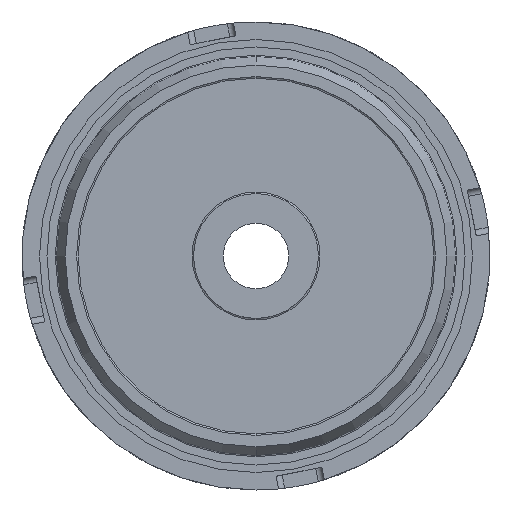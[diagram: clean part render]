
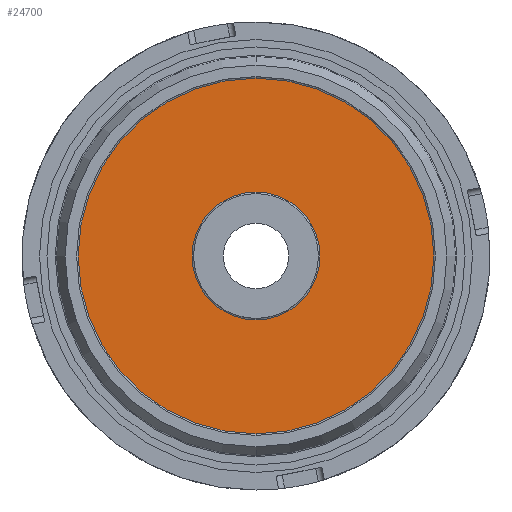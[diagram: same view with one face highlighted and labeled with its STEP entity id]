
A CAD part, front view. The second image highlights one B-rep face of the part: STEP entity #24700.
In plain terms, the highlighted planar face has unit normal (0, -1, 0).
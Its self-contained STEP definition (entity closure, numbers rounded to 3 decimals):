
#2913 = ORIENTED_EDGE ( 'NONE', *, *, #55983, .T. ) ;
#5612 = EDGE_LOOP ( 'NONE', ( #22910, #33255 ) ) ;
#9103 = CARTESIAN_POINT ( 'NONE',  ( 0., 6., 57. ) ) ;
#9233 = FACE_OUTER_BOUND ( 'NONE', #34393, .T. ) ;
#9334 = CIRCLE ( 'NONE', #9999, 57. ) ;
#9999 = AXIS2_PLACEMENT_3D ( 'NONE', #62638, #31224, #67914 ) ;
#10736 = CARTESIAN_POINT ( 'NONE',  ( 0., 6., 20.5 ) ) ;
#11826 = CARTESIAN_POINT ( 'NONE',  ( 0., 6., 0. ) ) ;
#12656 = PLANE ( 'NONE',  #33488 ) ;
#16329 = CARTESIAN_POINT ( 'NONE',  ( 0., 6., 0. ) ) ;
#17092 = DIRECTION ( 'NONE',  ( 0., 0., -1. ) ) ;
#21589 = DIRECTION ( 'NONE',  ( 0., 1., 0. ) ) ;
#21607 = DIRECTION ( 'NONE',  ( 0., 0., -1. ) ) ;
#22910 = ORIENTED_EDGE ( 'NONE', *, *, #40619, .T. ) ;
#23222 = DIRECTION ( 'NONE',  ( 0., 0., -1. ) ) ;
#24700 = ADVANCED_FACE ( 'NONE', ( #9233, #65041 ), #12656, .T. ) ;
#31224 = DIRECTION ( 'NONE',  ( 0., -1., 0. ) ) ;
#32034 = CARTESIAN_POINT ( 'NONE',  ( 0., 6., -20.5 ) ) ;
#33255 = ORIENTED_EDGE ( 'NONE', *, *, #35791, .T. ) ;
#33488 = AXIS2_PLACEMENT_3D ( 'NONE', #59674, #54646, #23222 ) ;
#34393 = EDGE_LOOP ( 'NONE', ( #63107, #2913 ) ) ;
#35791 = EDGE_CURVE ( 'NONE', #45920, #42626, #60324, .T. ) ;
#38121 = AXIS2_PLACEMENT_3D ( 'NONE', #52989, #21589, #58287 ) ;
#40619 = EDGE_CURVE ( 'NONE', #42626, #45920, #62215, .T. ) ;
#42032 = AXIS2_PLACEMENT_3D ( 'NONE', #16329, #53020, #21607 ) ;
#42626 = VERTEX_POINT ( 'NONE', #32034 ) ;
#44988 = VERTEX_POINT ( 'NONE', #45868 ) ;
#45868 = CARTESIAN_POINT ( 'NONE',  ( 0., 6., -57. ) ) ;
#45920 = VERTEX_POINT ( 'NONE', #10736 ) ;
#48571 = DIRECTION ( 'NONE',  ( 0., 1., 0. ) ) ;
#49840 = VERTEX_POINT ( 'NONE', #9103 ) ;
#49936 = AXIS2_PLACEMENT_3D ( 'NONE', #11826, #48571, #17092 ) ;
#52989 = CARTESIAN_POINT ( 'NONE',  ( 0., 6., 0. ) ) ;
#53020 = DIRECTION ( 'NONE',  ( 0., -1., 0. ) ) ;
#54646 = DIRECTION ( 'NONE',  ( 0., -1., 0. ) ) ;
#55983 = EDGE_CURVE ( 'NONE', #49840, #44988, #63975, .T. ) ;
#58287 = DIRECTION ( 'NONE',  ( 0., 0., -1. ) ) ;
#59674 = CARTESIAN_POINT ( 'NONE',  ( 0., 6., 0. ) ) ;
#60324 = CIRCLE ( 'NONE', #38121, 20.5 ) ;
#62215 = CIRCLE ( 'NONE', #49936, 20.5 ) ;
#62638 = CARTESIAN_POINT ( 'NONE',  ( 0., 6., 0. ) ) ;
#63107 = ORIENTED_EDGE ( 'NONE', *, *, #67295, .T. ) ;
#63975 = CIRCLE ( 'NONE', #42032, 57. ) ;
#65041 = FACE_BOUND ( 'NONE', #5612, .T. ) ;
#67295 = EDGE_CURVE ( 'NONE', #44988, #49840, #9334, .T. ) ;
#67914 = DIRECTION ( 'NONE',  ( 0., 0., -1. ) ) ;
